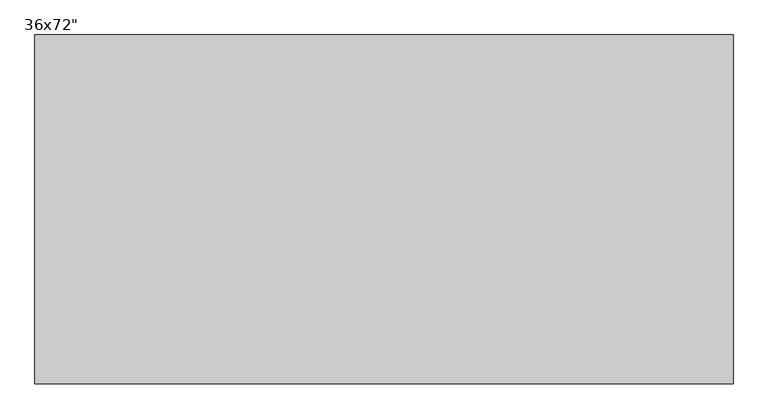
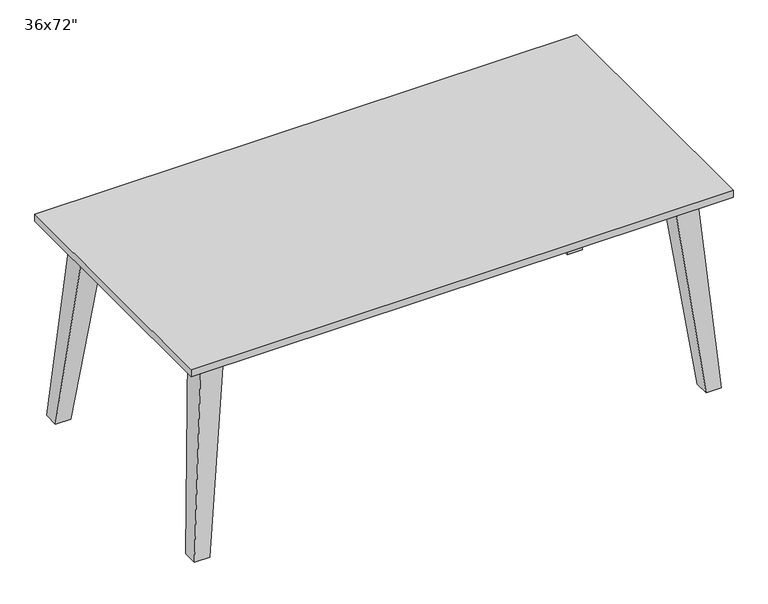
"""IFC4 building model written with IfcOpenShell, lengths in millimetres: furniture geometry."""

from ifc_helpers import new_model, si_unit, origin, place, context, project, spatial, faceted_brep, source, transform, mapped, element, save


def furniture_b9ae174f(model_context):
    return source(origin(), model_context, "Body", "Brep", [
        faceted_brep([(-848.7787, -65.6213, 660.4), (-848.7787, -162.9787, 660.4), (-751.4213, -162.9787, 660.4), (-751.4213, -65.6213, 660.4), (-889.0, -76.2, 0.0), (-889.0, -25.4, 0.0), (-838.2, -25.4, 0.0), (-838.2, -76.2, 0.0), (-763.3798304, -151.0201696, 648.4414695), (-836.8201696, -151.0201696, 648.4414695), (-838.9556214, -151.2665679, 650.5769214), (-763.1334321, -75.4443786, 650.5769214), (-763.3798304, -77.5798304, 648.4414695), (-838.9556214, -75.4443786, 650.5769214)], [[[0, 1, 2, 3]], [[4, 5, 6, 7]], [[4, 7, 8, 9, 10]], [[7, 6, 11, 12, 8]], [[6, 5, 13, 11]], [[5, 4, 10, 13]], [[1, 0, 13, 10, 9]], [[0, 3, 12, 11, 13]], [[3, 2, 8, 12]], [[2, 1, 9, 8]]]),
        faceted_brep([(848.7787, -65.6213, 660.4), (751.4213, -65.6213, 660.4), (751.4213, -162.9787, 660.4), (848.7787, -162.9787, 660.4), (838.2, -25.4, 0.0), (889.0, -25.4, 0.0), (889.0, -76.2, 0.0), (838.2, -76.2, 0.0), (763.3798304, -151.0201696, 648.4414695), (763.3798304, -77.5798304, 648.4414695), (763.1334321, -75.4443786, 650.5769214), (838.9556214, -151.2665679, 650.5769214), (836.8201696, -151.0201696, 648.4414695), (838.9556214, -75.4443786, 650.5769214)], [[[0, 1, 2, 3]], [[4, 5, 6, 7]], [[4, 7, 8, 9, 10]], [[7, 6, 11, 12, 8]], [[6, 5, 13, 11]], [[5, 4, 10, 13]], [[1, 0, 13, 10, 9]], [[0, 3, 12, 11, 13]], [[3, 2, 8, 12]], [[2, 1, 9, 8]]]),
        faceted_brep([(848.7787, -848.7787, 660.4), (848.7787, -751.4213, 660.4), (751.4213, -751.4213, 660.4), (751.4213, -848.7787, 660.4), (889.0, -838.2, 0.0), (889.0, -889.0, 0.0), (838.2, -889.0, 0.0), (838.2, -838.2, 0.0), (763.3798304, -763.3798304, 648.4414695), (836.8201696, -763.3798304, 648.4414695), (838.9556214, -763.1334321, 650.5769214), (763.1334321, -838.9556214, 650.5769214), (763.3798304, -836.8201696, 648.4414695), (838.9556214, -838.9556214, 650.5769214)], [[[0, 1, 2, 3]], [[4, 5, 6, 7]], [[4, 7, 8, 9, 10]], [[7, 6, 11, 12, 8]], [[6, 5, 13, 11]], [[5, 4, 10, 13]], [[1, 0, 13, 10, 9]], [[0, 3, 12, 11, 13]], [[3, 2, 8, 12]], [[2, 1, 9, 8]]]),
        faceted_brep([(-848.7787, -848.7787, 660.4), (-751.4213, -848.7787, 660.4), (-751.4213, -751.4213, 660.4), (-848.7787, -751.4213, 660.4), (-838.2, -889.0, 0.0), (-889.0, -889.0, 0.0), (-889.0, -838.2, 0.0), (-838.2, -838.2, 0.0), (-763.3798304, -763.3798304, 648.4414695), (-763.3798304, -836.8201696, 648.4414695), (-763.1334321, -838.9556214, 650.5769214), (-838.9556214, -763.1334321, 650.5769214), (-836.8201696, -763.3798304, 648.4414695), (-838.9556214, -838.9556214, 650.5769214)], [[[0, 1, 2, 3]], [[4, 5, 6, 7]], [[4, 7, 8, 9, 10]], [[7, 6, 11, 12, 8]], [[6, 5, 13, 11]], [[5, 4, 10, 13]], [[1, 0, 13, 10, 9]], [[0, 3, 12, 11, 13]], [[3, 2, 8, 12]], [[2, 1, 9, 8]]]),
        faceted_brep([(-870.4059095, -870.4059095, 660.4), (-870.4059095, -43.9940905, 660.4), (870.4059095, -43.9940905, 660.4), (870.4059095, -870.4059095, 660.4), (914.4, 0.0, 711.2), (-914.4, 0.0, 711.2), (-914.4, -914.4, 711.2), (914.4, -914.4, 711.2), (914.4, 0.0, 685.8), (-914.4, 0.0, 685.8), (-914.4, -914.4, 685.8), (914.4, -914.4, 685.8)], [[[0, 1, 2, 3]], [[4, 5, 6, 7]], [[5, 4, 8, 9]], [[6, 5, 9, 10]], [[7, 6, 10, 11]], [[4, 7, 11, 8]], [[9, 1, 0, 10]], [[1, 9, 8, 2]], [[2, 8, 11, 3]], [[10, 0, 3, 11]]]),
    ])


if __name__ == "__main__":
    model = new_model("IFC4")
    model_context = context("Model", 3, world=origin())
    ifc_project = project(units=[si_unit("LENGTHUNIT", "METRE", prefix="MILLI")], contexts=[model_context])
    site = spatial("IfcSite", under=ifc_project)
    building = spatial("IfcBuilding", under=site)
    placement = place(None, origin())
    furniture_shape = furniture_b9ae174f(model_context)
    element("IfcFurniture", 1, ObjectType="Table Rectanglar : 36x72\"", at=placement, inside=building, context=model_context, shape_type="MappedRepresentation", body=[
        mapped(furniture_shape, transform((0.0, 0.0, 0.0), x_axis=(1.0, 0.0, 0.0), y_axis=(0.0, 1.0, 0.0), z_axis=(0.0, 0.0, 1.0))),
    ])
    save(model, "model.ifc")
